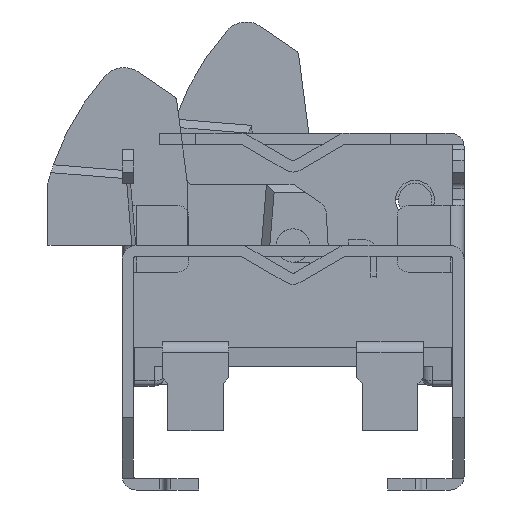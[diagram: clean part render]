
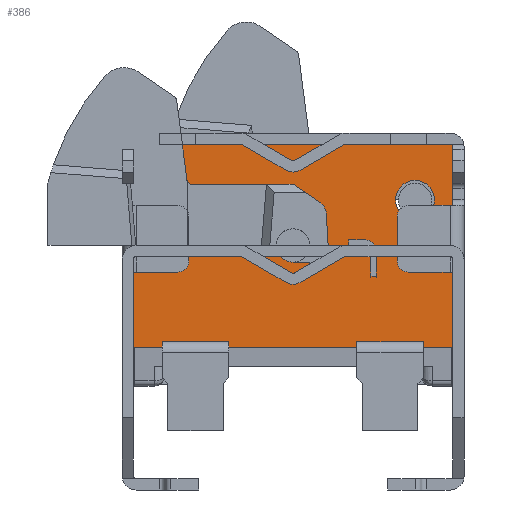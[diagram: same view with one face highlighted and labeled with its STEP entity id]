
A CAD part, front view. The second image highlights one B-rep face of the part: STEP entity #386.
In plain terms, the highlighted planar face has unit normal (0, -1, 0).
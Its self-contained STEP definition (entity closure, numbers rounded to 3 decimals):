
#386 = ADVANCED_FACE( '', ( #959, #960 ), #961, .F. );
#959 = FACE_BOUND( '', #1789, .T. );
#960 = FACE_OUTER_BOUND( '', #1790, .T. );
#961 = PLANE( '', #1791 );
#1789 = EDGE_LOOP( '', ( #2879 ) );
#1790 = EDGE_LOOP( '', ( #2880, #2881, #2882, #2883 ) );
#1791 = AXIS2_PLACEMENT_3D( '', #2884, #2885, #2886 );
#2879 = ORIENTED_EDGE( '', *, *, #5311, .T. );
#2880 = ORIENTED_EDGE( '', *, *, #5312, .T. );
#2881 = ORIENTED_EDGE( '', *, *, #5313, .F. );
#2882 = ORIENTED_EDGE( '', *, *, #5314, .F. );
#2883 = ORIENTED_EDGE( '', *, *, #5315, .T. );
#2884 = CARTESIAN_POINT( '', ( -2.875, 0., 1.82 ) );
#2885 = DIRECTION( '', ( 0., 1., 0. ) );
#2886 = DIRECTION( '', ( 0., 0., 1. ) );
#5311 = EDGE_CURVE( '', #6510, #6510, #6511, .T. );
#5312 = EDGE_CURVE( '', #6512, #6513, #6514, .T. );
#5313 = EDGE_CURVE( '', #6515, #6513, #6516, .T. );
#5314 = EDGE_CURVE( '', #6517, #6515, #6518, .T. );
#5315 = EDGE_CURVE( '', #6517, #6512, #6519, .T. );
#6510 = VERTEX_POINT( '', #8384 );
#6511 = CIRCLE( '', #8385, 0.35 );
#6512 = VERTEX_POINT( '', #8386 );
#6513 = VERTEX_POINT( '', #8387 );
#6514 = LINE( '', #8388, #8389 );
#6515 = VERTEX_POINT( '', #8390 );
#6516 = LINE( '', #8391, #8392 );
#6517 = VERTEX_POINT( '', #8393 );
#6518 = LINE( '', #8394, #8395 );
#6519 = LINE( '', #8396, #8397 );
#8384 = CARTESIAN_POINT( '', ( 2.545, 0., 0.82 ) );
#8385 = AXIS2_PLACEMENT_3D( '', #10250, #10251, #10252 );
#8386 = CARTESIAN_POINT( '', ( -2.875, 0., -1.831 ) );
#8387 = CARTESIAN_POINT( '', ( 2.875, 0., -1.831 ) );
#8388 = CARTESIAN_POINT( '', ( -2.875, 0., -1.831 ) );
#8389 = VECTOR( '', #10253, 1000. );
#8390 = CARTESIAN_POINT( '', ( 2.875, 0., 1.82 ) );
#8391 = CARTESIAN_POINT( '', ( 2.875, 0., 1.82 ) );
#8392 = VECTOR( '', #10254, 1000. );
#8393 = CARTESIAN_POINT( '', ( -2.875, 0., 1.82 ) );
#8394 = CARTESIAN_POINT( '', ( -2.875, 0., 1.82 ) );
#8395 = VECTOR( '', #10255, 1000. );
#8396 = CARTESIAN_POINT( '', ( -2.875, 0., 1.82 ) );
#8397 = VECTOR( '', #10256, 1000. );
#10250 = CARTESIAN_POINT( '', ( 2.195, 0., 0.82 ) );
#10251 = DIRECTION( '', ( 0., 1., 0. ) );
#10252 = DIRECTION( '', ( 1., 0., 0. ) );
#10253 = DIRECTION( '', ( 1., 0., 0. ) );
#10254 = DIRECTION( '', ( 0., 0., -1. ) );
#10255 = DIRECTION( '', ( 1., 0., 0. ) );
#10256 = DIRECTION( '', ( 0., 0., -1. ) );
